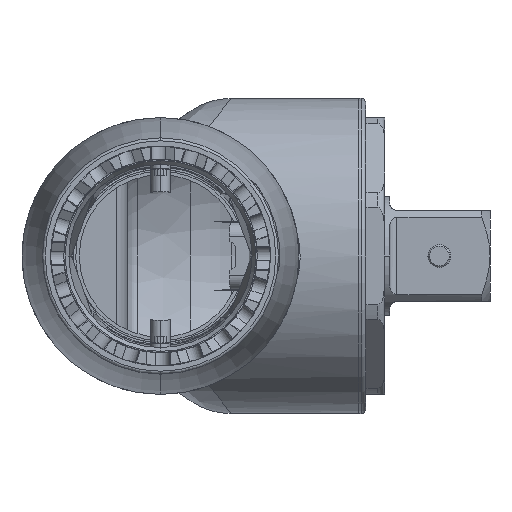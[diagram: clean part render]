
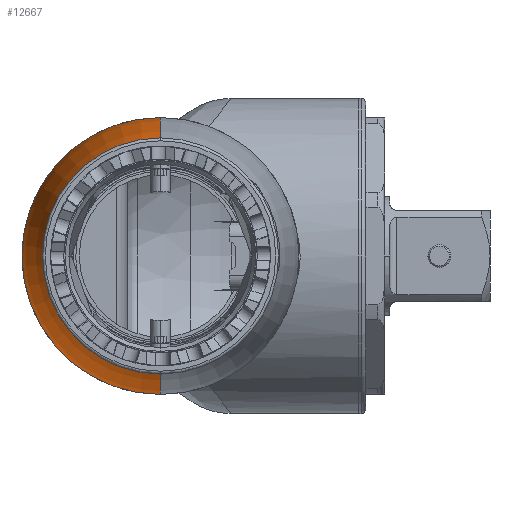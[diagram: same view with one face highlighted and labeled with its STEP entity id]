
A CAD part, left-side view. The second image highlights one B-rep face of the part: STEP entity #12667.
In plain terms, the highlighted toroidal (fillet/blend) face has major radius 126 mm and minor radius 155 mm.
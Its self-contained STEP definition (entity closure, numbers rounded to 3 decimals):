
#12605 = EDGE_CURVE ( 'NONE', #12606, #12607, #28121, .T. ) ;
#12606 = VERTEX_POINT ( 'NONE', #28111 ) ;
#12607 = VERTEX_POINT ( 'NONE', #28184 ) ;
#12647 = ORIENTED_EDGE ( 'NONE', *, *, #12648, .F. ) ;
#12648 = EDGE_CURVE ( 'NONE', #12674, #12673, #28288, .T. ) ;
#12649 = ORIENTED_EDGE ( 'NONE', *, *, #12650, .F. ) ;
#12650 = EDGE_CURVE ( 'NONE', #12606, #12674, #28277, .T. ) ;
#12667 = ADVANCED_FACE ( 'NONE', ( #28344 ), #28395, .T. ) ;
#12669 = EDGE_LOOP ( 'NONE', ( #12670, #12671, #12647, #12649 ) ) ;
#12670 = ORIENTED_EDGE ( 'NONE', *, *, #12605, .T. ) ;
#12671 = ORIENTED_EDGE ( 'NONE', *, *, #12672, .T. ) ;
#12672 = EDGE_CURVE ( 'NONE', #12607, #12673, #28394, .T. ) ;
#12673 = VERTEX_POINT ( 'NONE', #28384 ) ;
#12674 = VERTEX_POINT ( 'NONE', #28383 ) ;
#28111 = CARTESIAN_POINT ( 'NONE',  ( -262.744, 0., -22.408 ) ) ;
#28112 = DIRECTION ( 'NONE',  ( 0., 0., -1. ) ) ;
#28113 = DIRECTION ( 'NONE',  ( 1., 0., 0. ) ) ;
#28114 = CARTESIAN_POINT ( 'NONE',  ( -262.744, 0., 0. ) ) ;
#28115 = AXIS2_PLACEMENT_3D ( 'NONE', #28114, #28113, #28112 ) ;
#28121 = CIRCLE ( 'NONE', #28115, 22.408 ) ;
#28184 = CARTESIAN_POINT ( 'NONE',  ( -262.744, 0., 22.408 ) ) ;
#28273 = DIRECTION ( 'NONE',  ( 0., 0., -1. ) ) ;
#28274 = DIRECTION ( 'NONE',  ( 0., -1., 0. ) ) ;
#28275 = CARTESIAN_POINT ( 'NONE',  ( -218.021, 0., 126. ) ) ;
#28276 = AXIS2_PLACEMENT_3D ( 'NONE', #28275, #28274, #28273 ) ;
#28277 = CIRCLE ( 'NONE', #28276, 155. ) ;
#28279 = DIRECTION ( 'NONE',  ( 0., 0., -1. ) ) ;
#28280 = DIRECTION ( 'NONE',  ( 1., 0., 0. ) ) ;
#28281 = CARTESIAN_POINT ( 'NONE',  ( -218.021, 0., 0. ) ) ;
#28283 = AXIS2_PLACEMENT_3D ( 'NONE', #28281, #28280, #28279 ) ;
#28288 = CIRCLE ( 'NONE', #28283, 29. ) ;
#28344 = FACE_OUTER_BOUND ( 'NONE', #12669, .T. ) ;
#28383 = CARTESIAN_POINT ( 'NONE',  ( -218.021, 0., -29. ) ) ;
#28384 = CARTESIAN_POINT ( 'NONE',  ( -218.021, 0., 29. ) ) ;
#28385 = DIRECTION ( 'NONE',  ( 0., 0., 1. ) ) ;
#28386 = DIRECTION ( 'NONE',  ( 0., 1., 0. ) ) ;
#28387 = CARTESIAN_POINT ( 'NONE',  ( -218.021, 0., -126. ) ) ;
#28388 = AXIS2_PLACEMENT_3D ( 'NONE', #28387, #28386, #28385 ) ;
#28389 = DIRECTION ( 'NONE',  ( 0., 0., -1. ) ) ;
#28391 = DIRECTION ( 'NONE',  ( 1., 0., 0. ) ) ;
#28392 = CARTESIAN_POINT ( 'NONE',  ( -218.021, 0., 0. ) ) ;
#28393 = AXIS2_PLACEMENT_3D ( 'NONE', #28392, #28391, #28389 ) ;
#28394 = CIRCLE ( 'NONE', #28388, 155. ) ;
#28395 = TOROIDAL_SURFACE ( 'NONE', #28393, -126., 155. ) ;
